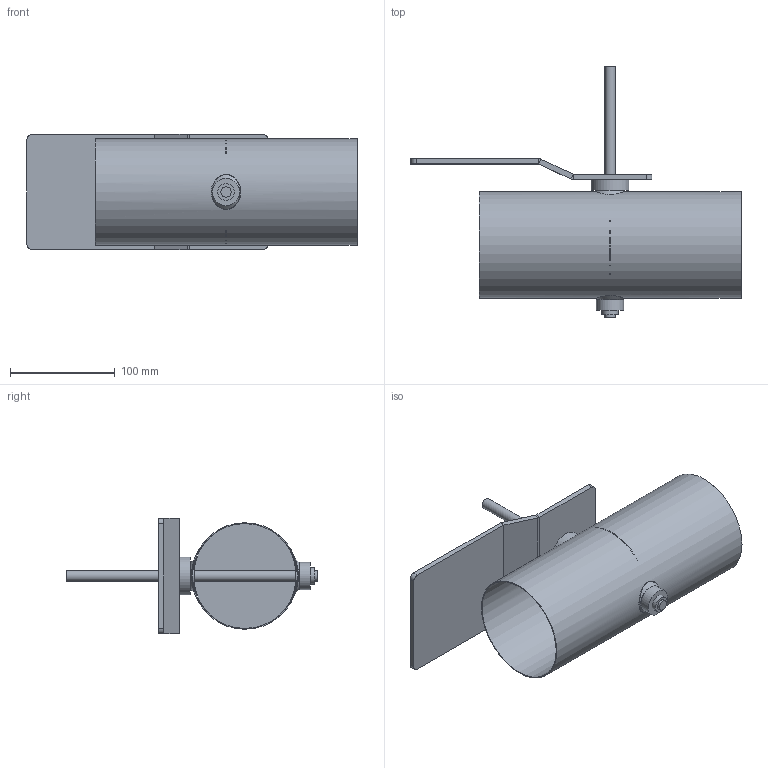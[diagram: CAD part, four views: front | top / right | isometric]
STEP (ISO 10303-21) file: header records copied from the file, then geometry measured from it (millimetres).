
FILE_DESCRIPTION(/* description */ (''),/* implementation_level */ '2;1');
FILE_NAME(/* name */ 'AA120-80B__100_L250_Belimo_Typen_NF_SF.stp',/* time_stamp */ '2017-12-05T13:26:47+01:00',/* author */ (''),/* organization */ (''),/* preprocessor_version */ 'ST-DEVELOPER v11',/* originating_system */ 'SIEMENS UGS NX 6.0',/* authorisation */ '');
FILE_SCHEMA (('CONFIG_CONTROL_DESIGN'));
Length unit declared in the file: millimetre
Products named in the file (1): gars1E3Bhih2
Bounding box: 315 x 239 x 110 mm (x, y, z)
Volume: 234796.5 mm3; surface area: 246365.2 mm2
Topology: 8 solids, 8 shells, 81 faces, 171 edges, 112 vertices
Faces by surface type: plane 40, cylinder 29, cone 4, bspline 4, torus 4
Full cylindrical faces by diameter (mm): 4.1 x3, 10 x3, 15 x3, 15.85 x2, 16 x2, 24 x2, 26 x1, 36 x1, 100 x1, 101.6 x1
Entity records: 2620 total; most frequent: CARTESIAN_POINT 968, DIRECTION 336, ORIENTED_EDGE 244, AXIS2_PLACEMENT_3D 144, EDGE_LOOP 140, EDGE_CURVE 122, FACE_BOUND 110, VERTEX_POINT 94
